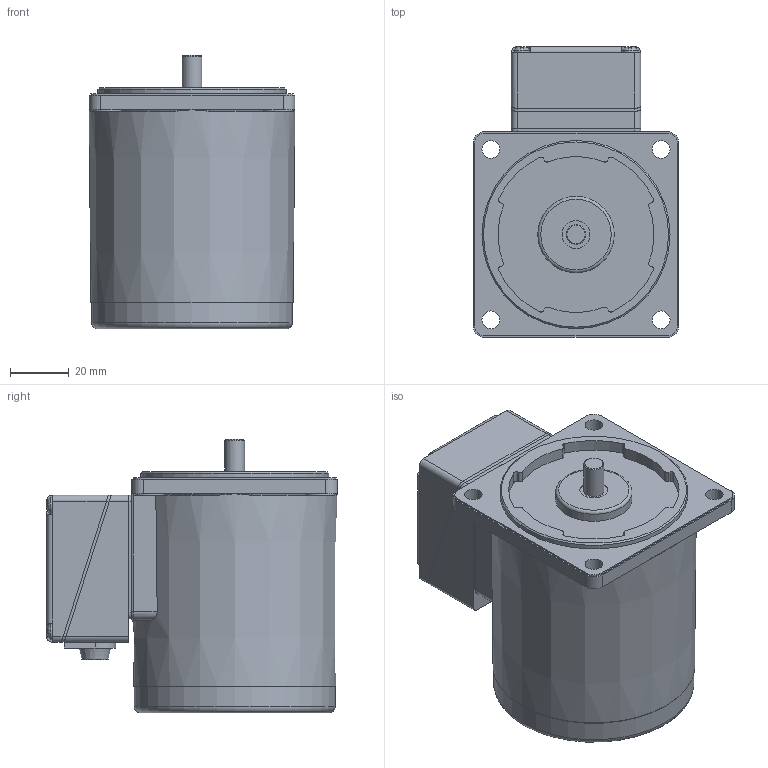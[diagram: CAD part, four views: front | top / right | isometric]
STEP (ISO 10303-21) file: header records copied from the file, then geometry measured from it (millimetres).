
FILE_DESCRIPTION (( 'STEP AP214' ), '1' );
FILE_NAME ('7IDG¤±-15G-T.STEP', '2025-01-13T01:46:19', ( '' ), ( '' ), 'SwSTEP 2.0', 'SolidWorks 2024', '' );
FILE_SCHEMA (( 'AUTOMOTIVE_DESIGN' ));
Length unit declared in the file: millimetre
Products named in the file (3): 7IDGㅁ-15G; 7IDGㅁ-15G-T; TB6070
Assembly tree (2 placements, depth 2):
  7IDGㅁ-15G-T
    7IDGㅁ-15G
    TB6070
Bounding box: 70 x 99 x 93 mm (x, y, z)
Volume: 375142.9 mm3; surface area: 53285.9 mm2
Topology: 7 solids, 7 shells, 244 faces, 613 edges, 396 vertices
Faces by surface type: plane 136, cylinder 84, bspline 11, torus 9, cone 4
Full cylindrical faces by diameter (mm): 5.5 x4, 6 x5, 6.8 x1, 7 x1, 9.5 x1, 10 x5, 26 x1, 34.5 x1, 64 x1, 68.4 x1
Entity records: 7552 total; most frequent: CARTESIAN_POINT 1834, DIRECTION 1140, ORIENTED_EDGE 1128, EDGE_CURVE 564, AXIS2_PLACEMENT_3D 415, VERTEX_POINT 385, VECTOR 310, LINE 310
